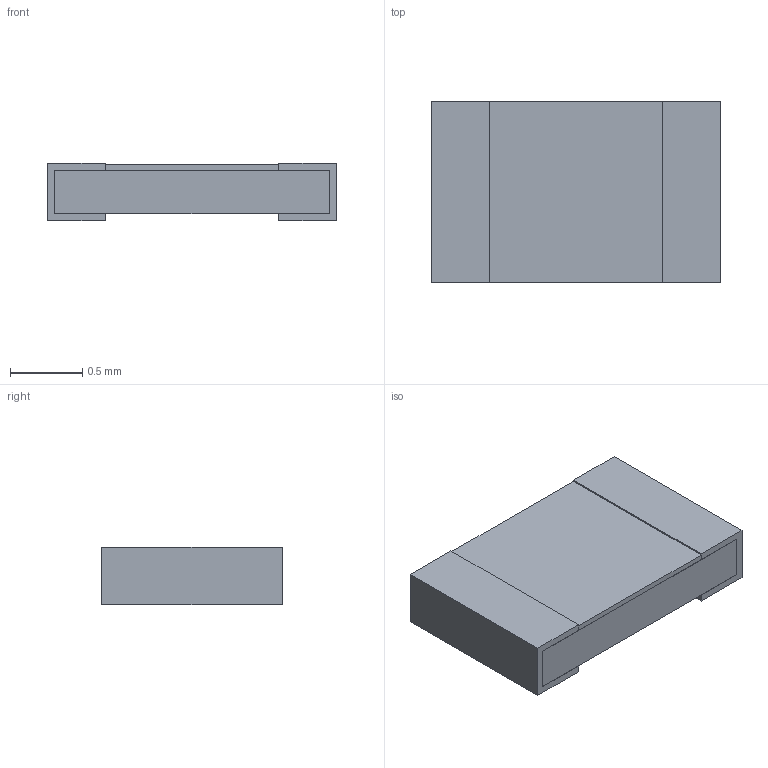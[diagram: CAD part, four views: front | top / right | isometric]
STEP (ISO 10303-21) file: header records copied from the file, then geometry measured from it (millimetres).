
FILE_DESCRIPTION(('STEP AP203'), '1');
FILE_NAME('Ð1-153 0805', '', ('UNSPECIFIED'), ('UNSPECIFIED'), 'ASCON STEP Converter 1.6', 'ASCON Math Kernel', '');
FILE_SCHEMA(('CONFIG_CONTROL_DESIGN'));
Length unit declared in the file: millimetre
Bounding box: 2 x 1.25 x 0.4 mm (x, y, z)
Volume: 0.9 mm3; surface area: 15.8 mm2
Topology: 4 solids, 4 shells, 32 faces, 72 edges, 48 vertices
Faces by surface type: plane 32
Entity records: 1194 total; most frequent: CARTESIAN_POINT 153, ORIENTED_EDGE 144, DIRECTION 138, EDGE_CURVE 72, LINE 72, VECTOR 72, VERTEX_POINT 48, COLOUR_RGB 36
